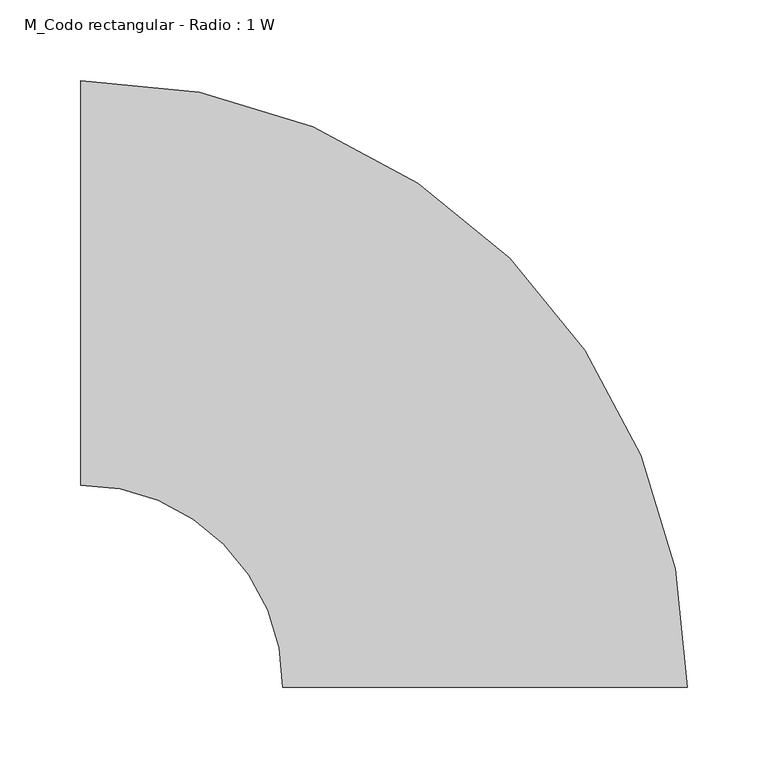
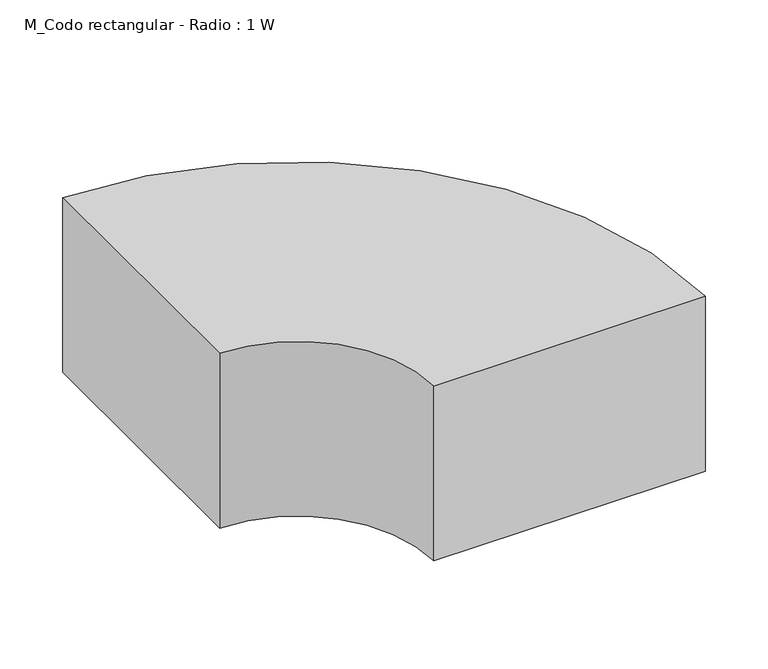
"""IFC4 building model written with IfcOpenShell, lengths in millimetres: duct fitting geometry, M_Codo rectangular - Radio : 1 W."""

import ifcopenshell
import ifcopenshell.guid

model = None  # the IFC model being written
_history = None  # IfcOwnerHistory: only IFC2X3 demands one
_inside = {}  # id of a spatial element -> (the spatial element, [elements in it])
_under = {}  # id of a project, library or spatial element -> (it, [spatial elements below it])
_declared = {}  # id of a project -> (the project, [libraries it declares])
_typed = {}  # id of a type object -> (the type object, [elements of that type])
_made_of = {}  # id of a material, layer set ... -> (it, [elements and type objects made of it])


def new_model(schema):
    """Start an empty IFC model of exactly this schema.

    Asked for "IFC4X3", IfcOpenShell would pick the latest addendum, in which some entities
    have other attributes; the version numbers below select the first issue.
    IFC2X3 requires an IfcOwnerHistory on every rooted entity: one is made here for all.
    """
    global model, _history
    if schema == "IFC4X3":
        model = ifcopenshell.file(schema_version=(4, 3, 0, 0))
    else:
        model = ifcopenshell.file(schema=schema)
    _inside.clear()
    _under.clear()
    _declared.clear()
    _typed.clear()
    _made_of.clear()
    _history = None
    if model.schema == "IFC2X3":
        org = make("IfcOrganization", Name="unknown")
        user = make(
            "IfcPersonAndOrganization",
            ThePerson=make("IfcPerson", FamilyName="unknown"),
            TheOrganization=org,
        )
        app = make(
            "IfcApplication",
            ApplicationDeveloper=org,
            Version="unknown",
            ApplicationFullName="unknown",
            ApplicationIdentifier="unknown",
        )
        _history = make(
            "IfcOwnerHistory",
            OwningUser=user,
            OwningApplication=app,
            ChangeAction="ADDED",
            CreationDate=0,
        )
    return model


def make(cls, **values):
    """One entity of the class cls with the attributes given. An attribute that is None is left unset."""
    return model.create_entity(
        cls, **{name: value for name, value in values.items() if value is not None}
    )


def rooted(cls, **values):
    """An entity with a GlobalId (a new one), such as an element, a storey or a relation."""
    return make(cls, GlobalId=ifcopenshell.guid.new(), OwnerHistory=_history, **values)


def si_unit(unit_type, name, prefix=None):
    """IfcSIUnit, for example si_unit("LENGTHUNIT", "METRE", prefix="MILLI")."""
    return make("IfcSIUnit", UnitType=unit_type, Prefix=prefix, Name=name)


def assignment(units):
    """IfcUnitAssignment: the units of a project."""
    return None if units is None else make("IfcUnitAssignment", Units=units)


def point(xyz):
    """IfcCartesianPoint."""
    return None if xyz is None else make("IfcCartesianPoint", Coordinates=xyz)


def direction(xyz):
    """IfcDirection."""
    return None if xyz is None else make("IfcDirection", DirectionRatios=xyz)


def frame(location, z_axis=None, x_axis=None):
    """IfcAxis2Placement3D, a coordinate frame: its origin and axes. An axis left out is left unset."""
    return make(
        "IfcAxis2Placement3D",
        Location=point(location),
        Axis=direction(z_axis),
        RefDirection=direction(x_axis),
    )


def frame_2d(location, x_axis=None):
    """IfcAxis2Placement2D, a coordinate frame in the plane: its origin and x axis."""
    return make(
        "IfcAxis2Placement2D", Location=point(location), RefDirection=direction(x_axis)
    )


def origin():
    """The frame at (0, 0, 0) with its axes left unset."""
    return frame((0.0, 0.0, 0.0))


def place(relative_to, where):
    """IfcLocalPlacement: puts the frame where relative to a parent placement (None: the world)."""
    return make(
        "IfcLocalPlacement", PlacementRelTo=relative_to, RelativePlacement=where
    )


def context(
    kind, dimensions, precision=None, world=None, true_north=None, identifier=None
):
    """IfcGeometricRepresentationContext, for example the 3D "Model" context."""
    return make(
        "IfcGeometricRepresentationContext",
        ContextIdentifier=identifier,
        ContextType=kind,
        CoordinateSpaceDimension=dimensions,
        Precision=precision,
        WorldCoordinateSystem=world,
        TrueNorth=true_north,
    )


def project(units=None, contexts=None):
    """IfcProject with its units and contexts."""
    return rooted(
        "IfcProject",
        Name="project",
        RepresentationContexts=contexts,
        UnitsInContext=assignment(units),
    )


def spatial(cls, under=None, at=None, **own):
    """A site, building, storey or space (cls), placed at a placement, below another one or the project."""
    s = rooted(cls, ObjectPlacement=at, **own)
    if under is not None:
        _under.setdefault(under.id(), (under, []))[1].append(s)
    return s


def polyline(points):
    """IfcPolyline through the points."""
    return make("IfcPolyline", Points=[point(p) for p in points])


def circle_curve(where, radius):
    """IfcCircle in the frame where."""
    return make("IfcCircle", Position=where, Radius=radius)


def trimmed(basis, trim1, trim2, sense, master):
    """IfcTrimmedCurve: the piece of a basis curve between two trims."""
    return make(
        "IfcTrimmedCurve",
        BasisCurve=basis,
        Trim1=trim1,
        Trim2=trim2,
        SenseAgreement=sense,
        MasterRepresentation=master,
    )


def segment(curve, same_sense, transition):
    """IfcCompositeCurveSegment."""
    return make(
        "IfcCompositeCurveSegment",
        Transition=transition,
        SameSense=same_sense,
        ParentCurve=curve,
    )


def composite_curve(segments, self_intersect=None):
    """IfcCompositeCurve: segments joined end to end."""
    return make("IfcCompositeCurve", Segments=segments, SelfIntersect=self_intersect)


def outline(outer, holes=None, kind="AREA"):
    """IfcArbitraryClosedProfileDef: a profile drawn as a closed curve; with holes, ...WithVoids."""
    if holes is None:
        return make("IfcArbitraryClosedProfileDef", ProfileType=kind, OuterCurve=outer)
    return make(
        "IfcArbitraryProfileDefWithVoids",
        ProfileType=kind,
        OuterCurve=outer,
        InnerCurves=holes,
    )


def extrude(swept, where, along, depth):
    """IfcExtrudedAreaSolid: the profile swept, set in the frame where, extruded along a direction by depth."""
    return make(
        "IfcExtrudedAreaSolid",
        SweptArea=swept,
        Position=where,
        ExtrudedDirection=direction(along),
        Depth=depth,
    )


def shape(context_of_items, identifier, shape_type, items):
    """IfcShapeRepresentation: the items that make up one representation, for example the "Body"."""
    return make(
        "IfcShapeRepresentation",
        ContextOfItems=context_of_items,
        RepresentationIdentifier=identifier,
        RepresentationType=shape_type,
        Items=items,
    )


def source(mapping_origin, context_of_items, identifier, shape_type, items):
    """IfcRepresentationMap: a shape defined once, which mapped items show again and again."""
    return make(
        "IfcRepresentationMap",
        MappingOrigin=mapping_origin,
        MappedRepresentation=shape(context_of_items, identifier, shape_type, items),
    )


def transform(
    local_origin,
    x_axis=None,
    y_axis=None,
    z_axis=None,
    scale=None,
    scale2=None,
    scale3=None,
    uniform=True,
):
    """IfcCartesianTransformationOperator3D, or its non-uniform kind. x_axis, y_axis, z_axis: its Axis1, 2, 3."""
    if uniform:
        return make(
            "IfcCartesianTransformationOperator3D",
            Axis1=direction(x_axis),
            Axis2=direction(y_axis),
            LocalOrigin=point(local_origin),
            Scale=scale,
            Axis3=direction(z_axis),
        )
    return make(
        "IfcCartesianTransformationOperator3DnonUniform",
        Axis1=direction(x_axis),
        Axis2=direction(y_axis),
        LocalOrigin=point(local_origin),
        Scale=scale,
        Axis3=direction(z_axis),
        Scale2=scale2,
        Scale3=scale3,
    )


def mapped(mapping_source, mapping_target):
    """IfcMappedItem: shows the shape of a source again, moved by a transform."""
    return make(
        "IfcMappedItem", MappingSource=mapping_source, MappingTarget=mapping_target
    )


def made_of(thing, what):
    """Note that an element or type object is made of a material, layer set ...; save() writes the relation."""
    if what is not None:
        _made_of.setdefault(what.id(), (what, []))[1].append(thing)
    return thing


def element(
    cls,
    number,
    at=None,
    inside=None,
    cuts=None,
    type_object=None,
    material=None,
    context=None,
    identifier="Body",
    shape_type=None,
    held_by="IfcProductDefinitionShape",
    body=None,
    shapes=None,
    **own,
):
    """One element of the class cls, such as IfcWall. Its Tag is "e" and its number.

    at: its placement. inside: the storey or other place that contains it. cuts: it is an
    opening in that element (IfcRelVoidsElement). A single representation is given by context,
    identifier, shape_type and body (its items); several are given by shapes. held_by: the class
    of the entity that holds the representations. save() writes the other relations.
    """
    e = rooted(cls, Tag="e%d" % number, ObjectPlacement=at, **own)
    if body is not None:
        shapes = [shape(context, identifier, shape_type, body)]
    if shapes is not None:
        e.Representation = make(held_by, Representations=shapes)
    if inside is not None:
        _inside.setdefault(inside.id(), (inside, []))[1].append(e)
    if cuts is not None:
        rooted(
            "IfcRelVoidsElement", RelatingBuildingElement=cuts, RelatedOpeningElement=e
        )
    if type_object is not None:
        _typed.setdefault(type_object.id(), (type_object, []))[1].append(e)
    return made_of(e, material)


def aggregate(whole, parts):
    """IfcRelAggregates: a whole, such as a stair, and the parts it consists of."""
    return rooted("IfcRelAggregates", RelatingObject=whole, RelatedObjects=parts)


def save(model, path):
    """Write the relations noted so far, then the file.

    IfcRelAggregates (storeys below a building ...), IfcRelContainedInSpatialStructure (elements
    in a storey), IfcRelDefinesByType, IfcRelAssociatesMaterial and IfcRelDeclares: one each for
    every whole, place, type object, material and project.
    """
    for whole, parts in _under.values():
        aggregate(whole, parts)
    for where, things in _inside.values():
        rooted(
            "IfcRelContainedInSpatialStructure",
            RelatedElements=things,
            RelatingStructure=where,
        )
    for kind, things in _typed.values():
        rooted("IfcRelDefinesByType", RelatedObjects=things, RelatingType=kind)
    for what, things in _made_of.values():
        rooted("IfcRelAssociatesMaterial", RelatedObjects=things, RelatingMaterial=what)
    for by, libraries in _declared.values():
        rooted("IfcRelDeclares", RelatingContext=by, RelatedDefinitions=libraries)
    model.write(path)


def m_codo_rectangular_radio_1_w_507b558b(model_context):
    return source(origin(), model_context, "Body", "SweptSolid", [
        extrude(outline(composite_curve([segment(polyline([(125.0, -250.0), (-125.0, -250.0)]), True, "CONTINUOUS"), segment(trimmed(circle_curve(frame_2d((-250.0, -250.0)), 125.0), [point((-125.0, -250.0))], [point((-250.0, -125.0))], True, "CARTESIAN"), True, "CONTINUOUS"), segment(polyline([(-250.0, -125.0), (-250.0, 125.0)]), True, "CONTINUOUS"), segment(trimmed(circle_curve(frame_2d((-250.0, -250.0)), 375.0), [point((-250.0, 125.0))], [point((125.0, -250.0))], False, "CARTESIAN"), True, "CONTINUOUS")], self_intersect=False)), frame((0.0, 0.0, -85.0), z_axis=(0.0, 0.0, 1.0), x_axis=(1.0, 0.0, 0.0)), (0.0, 0.0, 1.0), 170.0),
    ])


if __name__ == "__main__":
    model = new_model("IFC4")
    model_context = context("Model", 3, world=origin())
    ifc_project = project(units=[si_unit("LENGTHUNIT", "METRE", prefix="MILLI")], contexts=[model_context])
    site = spatial("IfcSite", under=ifc_project)
    building = spatial("IfcBuilding", under=site)
    placement = place(None, origin())
    m_codo_rectangular_radio_1_w_shape = m_codo_rectangular_radio_1_w_507b558b(model_context)
    element("IfcDuctFitting", 1, ObjectType="M_Codo rectangular - Radio : 1 W", at=placement, inside=building, context=model_context, shape_type="MappedRepresentation", body=[
        mapped(m_codo_rectangular_radio_1_w_shape, transform((0.0, 0.0, 0.0), x_axis=(1.0, 0.0, 0.0), y_axis=(0.0, 1.0, 0.0), z_axis=(0.0, 0.0, 1.0))),
    ])
    save(model, "model.ifc")
